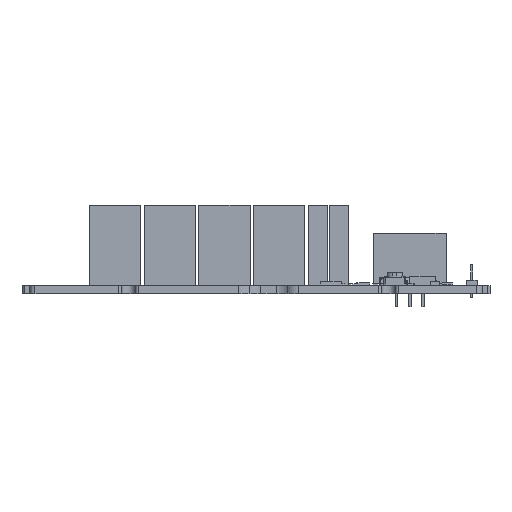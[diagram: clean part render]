
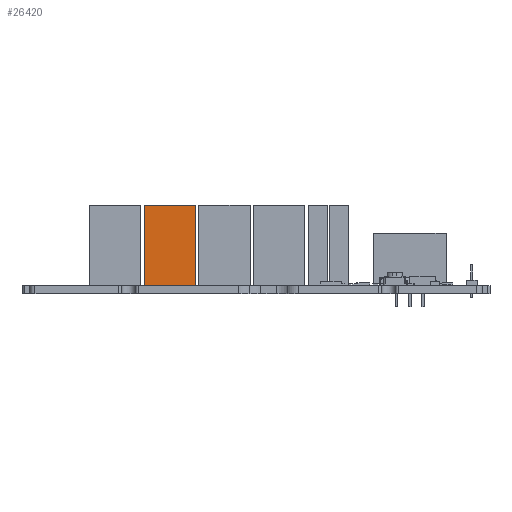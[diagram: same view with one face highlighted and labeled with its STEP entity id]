
A CAD part, front view. The second image highlights one B-rep face of the part: STEP entity #26420.
In plain terms, the highlighted planar face has unit normal (0, -1, 0).
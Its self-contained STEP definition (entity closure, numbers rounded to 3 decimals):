
#26395 = VERTEX_POINT('',#26396);
#26396 = CARTESIAN_POINT('',(32.884,3.4,15.5)
  );
#26402 = EDGE_CURVE('',#26403,#26395,#26405,.T.);
#26403 = VERTEX_POINT('',#26404);
#26404 = CARTESIAN_POINT('',(32.884,3.4,0.));
#26405 = LINE('',#26406,#26407);
#26406 = CARTESIAN_POINT('',(32.884,3.4,0.));
#26407 = VECTOR('',#26408,1.);
#26408 = DIRECTION('',(0.,0.,1.));
#26420 = ADVANCED_FACE('',(#26421),#26446,.T.);
#26421 = FACE_BOUND('',#26422,.T.);
#26422 = EDGE_LOOP('',(#26423,#26424,#26432,#26440));
#26423 = ORIENTED_EDGE('',*,*,#26402,.T.);
#26424 = ORIENTED_EDGE('',*,*,#26425,.T.);
#26425 = EDGE_CURVE('',#26395,#26426,#26428,.T.);
#26426 = VERTEX_POINT('',#26427);
#26427 = CARTESIAN_POINT('',(22.984,3.4,15.5)
  );
#26428 = LINE('',#26429,#26430);
#26429 = CARTESIAN_POINT('',(32.884,3.4,15.5)
  );
#26430 = VECTOR('',#26431,1.);
#26431 = DIRECTION('',(-1.,0.,0.));
#26432 = ORIENTED_EDGE('',*,*,#26433,.F.);
#26433 = EDGE_CURVE('',#26434,#26426,#26436,.T.);
#26434 = VERTEX_POINT('',#26435);
#26435 = CARTESIAN_POINT('',(22.984,3.4,0.));
#26436 = LINE('',#26437,#26438);
#26437 = CARTESIAN_POINT('',(22.984,3.4,0.));
#26438 = VECTOR('',#26439,1.);
#26439 = DIRECTION('',(0.,0.,1.));
#26440 = ORIENTED_EDGE('',*,*,#26441,.F.);
#26441 = EDGE_CURVE('',#26403,#26434,#26442,.T.);
#26442 = LINE('',#26443,#26444);
#26443 = CARTESIAN_POINT('',(32.884,3.4,0.));
#26444 = VECTOR('',#26445,1.);
#26445 = DIRECTION('',(-1.,0.,0.));
#26446 = PLANE('',#26447);
#26447 = AXIS2_PLACEMENT_3D('',#26448,#26449,#26450);
#26448 = CARTESIAN_POINT('',(32.884,3.4,0.));
#26449 = DIRECTION('',(0.,-1.,0.));
#26450 = DIRECTION('',(-1.,0.,0.));
